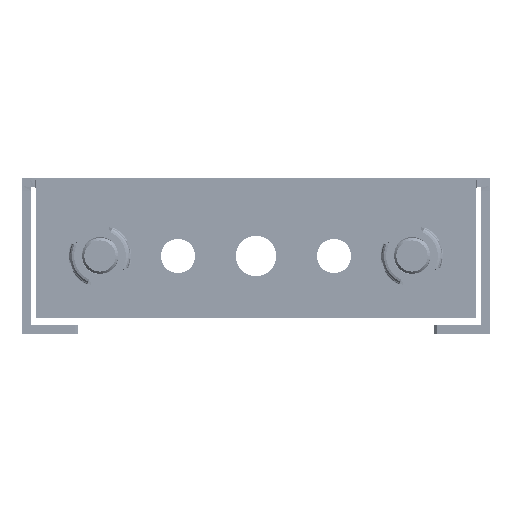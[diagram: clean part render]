
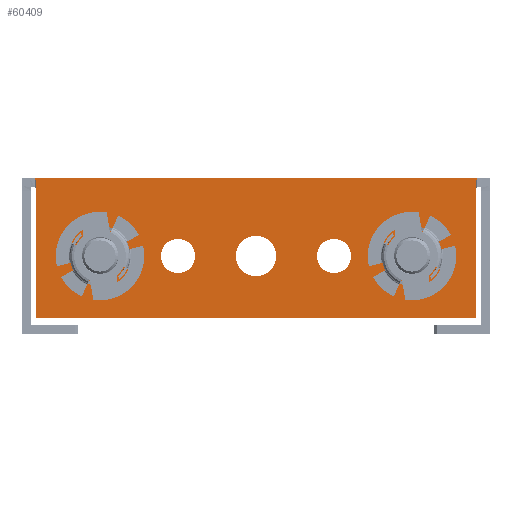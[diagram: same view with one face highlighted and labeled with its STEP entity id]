
A CAD part, left-side view. The second image highlights one B-rep face of the part: STEP entity #60409.
In plain terms, the highlighted planar face has unit normal (-1, 0, 0).
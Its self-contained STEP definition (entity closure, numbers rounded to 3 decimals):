
#28791 = VERTEX_POINT('',#28792);
#28792 = CARTESIAN_POINT('',(-549.,35.346,-0.));
#28799 = EDGE_CURVE('',#28800,#28791,#28802,.T.);
#28800 = VERTEX_POINT('',#28801);
#28801 = CARTESIAN_POINT('',(-549.,-35.346,
    0.));
#28802 = LINE('',#28803,#28804);
#28803 = CARTESIAN_POINT('',(-549.,0.,-0.));
#28804 = VECTOR('',#28805,1.);
#28805 = DIRECTION('',(-0.,1.,-0.));
#60210 = EDGE_CURVE('',#60211,#28800,#60213,.T.);
#60211 = VERTEX_POINT('',#60212);
#60212 = CARTESIAN_POINT('',(-549.,-35.293,-2.1));
#60213 = B_SPLINE_CURVE_WITH_KNOTS('',3,(#60214,#60215,#60216,#60217),
  .UNSPECIFIED.,.F.,.F.,(4,4),(0.002,0.004),
  .PIECEWISE_BEZIER_KNOTS.);
#60214 = CARTESIAN_POINT('',(-549.,-35.293,-2.1));
#60215 = CARTESIAN_POINT('',(-549.,-35.316,-1.4));
#60216 = CARTESIAN_POINT('',(-549.,-35.335,
    -0.7));
#60217 = CARTESIAN_POINT('',(-549.,-35.346,
    0.));
#60303 = EDGE_CURVE('',#60304,#28791,#60306,.T.);
#60304 = VERTEX_POINT('',#60305);
#60305 = CARTESIAN_POINT('',(-549.,35.293,-2.1));
#60306 = B_SPLINE_CURVE_WITH_KNOTS('',3,(#60307,#60308,#60309,#60310),
  .UNSPECIFIED.,.F.,.F.,(4,4),(0.002,0.004),
  .PIECEWISE_BEZIER_KNOTS.);
#60307 = CARTESIAN_POINT('',(-549.,35.293,-2.1));
#60308 = CARTESIAN_POINT('',(-549.,35.316,-1.4));
#60309 = CARTESIAN_POINT('',(-549.,35.335,-0.7));
#60310 = CARTESIAN_POINT('',(-549.,35.346,-0.));
#60385 = VERTEX_POINT('',#60386);
#60386 = CARTESIAN_POINT('',(-549.,-35.293,-22.5));
#60399 = EDGE_CURVE('',#60211,#60385,#60400,.T.);
#60400 = LINE('',#60401,#60402);
#60401 = CARTESIAN_POINT('',(-549.,-35.293,-1.5));
#60402 = VECTOR('',#60403,1.);
#60403 = DIRECTION('',(0.,0.,-1.));
#60409 = ADVANCED_FACE('',(#60410,#60421,#60432,#60443,#60454,#60465),
  #60485,.F.);
#60410 = FACE_BOUND('',#60411,.T.);
#60411 = EDGE_LOOP('',(#60412));
#60412 = ORIENTED_EDGE('',*,*,#60413,.F.);
#60413 = EDGE_CURVE('',#60414,#60414,#60416,.T.);
#60414 = VERTEX_POINT('',#60415);
#60415 = CARTESIAN_POINT('',(-549.,-12.5,-9.75));
#60416 = CIRCLE('',#60417,2.75);
#60417 = AXIS2_PLACEMENT_3D('',#60418,#60419,#60420);
#60418 = CARTESIAN_POINT('',(-549.,-12.5,-12.5));
#60419 = DIRECTION('',(-1.,0.,0.));
#60420 = DIRECTION('',(0.,0.,1.));
#60421 = FACE_BOUND('',#60422,.T.);
#60422 = EDGE_LOOP('',(#60423));
#60423 = ORIENTED_EDGE('',*,*,#60424,.F.);
#60424 = EDGE_CURVE('',#60425,#60425,#60427,.T.);
#60425 = VERTEX_POINT('',#60426);
#60426 = CARTESIAN_POINT('',(-549.,12.5,-15.25));
#60427 = CIRCLE('',#60428,2.75);
#60428 = AXIS2_PLACEMENT_3D('',#60429,#60430,#60431);
#60429 = CARTESIAN_POINT('',(-549.,12.5,-12.5));
#60430 = DIRECTION('',(-1.,0.,0.));
#60431 = DIRECTION('',(0.,0.,-1.));
#60432 = FACE_BOUND('',#60433,.T.);
#60433 = EDGE_LOOP('',(#60434));
#60434 = ORIENTED_EDGE('',*,*,#60435,.F.);
#60435 = EDGE_CURVE('',#60436,#60436,#60438,.T.);
#60436 = VERTEX_POINT('',#60437);
#60437 = CARTESIAN_POINT('',(-549.,25.,-15.75));
#60438 = CIRCLE('',#60439,3.25);
#60439 = AXIS2_PLACEMENT_3D('',#60440,#60441,#60442);
#60440 = CARTESIAN_POINT('',(-549.,25.,-12.5));
#60441 = DIRECTION('',(-1.,0.,0.));
#60442 = DIRECTION('',(0.,0.,-1.));
#60443 = FACE_BOUND('',#60444,.T.);
#60444 = EDGE_LOOP('',(#60445));
#60445 = ORIENTED_EDGE('',*,*,#60446,.F.);
#60446 = EDGE_CURVE('',#60447,#60447,#60449,.T.);
#60447 = VERTEX_POINT('',#60448);
#60448 = CARTESIAN_POINT('',(-549.,-25.,-9.25));
#60449 = CIRCLE('',#60450,3.25);
#60450 = AXIS2_PLACEMENT_3D('',#60451,#60452,#60453);
#60451 = CARTESIAN_POINT('',(-549.,-25.,-12.5));
#60452 = DIRECTION('',(-1.,0.,0.));
#60453 = DIRECTION('',(0.,0.,1.));
#60454 = FACE_BOUND('',#60455,.T.);
#60455 = EDGE_LOOP('',(#60456));
#60456 = ORIENTED_EDGE('',*,*,#60457,.F.);
#60457 = EDGE_CURVE('',#60458,#60458,#60460,.T.);
#60458 = VERTEX_POINT('',#60459);
#60459 = CARTESIAN_POINT('',(-549.,0.,-9.25));
#60460 = CIRCLE('',#60461,3.25);
#60461 = AXIS2_PLACEMENT_3D('',#60462,#60463,#60464);
#60462 = CARTESIAN_POINT('',(-549.,0.,-12.5));
#60463 = DIRECTION('',(-1.,0.,0.));
#60464 = DIRECTION('',(0.,0.,1.));
#60465 = FACE_BOUND('',#60466,.T.);
#60466 = EDGE_LOOP('',(#60467,#60468,#60469,#60470,#60471,#60479));
#60467 = ORIENTED_EDGE('',*,*,#60399,.F.);
#60468 = ORIENTED_EDGE('',*,*,#60210,.T.);
#60469 = ORIENTED_EDGE('',*,*,#28799,.T.);
#60470 = ORIENTED_EDGE('',*,*,#60303,.F.);
#60471 = ORIENTED_EDGE('',*,*,#60472,.T.);
#60472 = EDGE_CURVE('',#60304,#60473,#60475,.T.);
#60473 = VERTEX_POINT('',#60474);
#60474 = CARTESIAN_POINT('',(-549.,35.293,-22.5));
#60475 = LINE('',#60476,#60477);
#60476 = CARTESIAN_POINT('',(-549.,35.293,0.));
#60477 = VECTOR('',#60478,1.);
#60478 = DIRECTION('',(0.,0.,-1.));
#60479 = ORIENTED_EDGE('',*,*,#60480,.F.);
#60480 = EDGE_CURVE('',#60385,#60473,#60481,.T.);
#60481 = LINE('',#60482,#60483);
#60482 = CARTESIAN_POINT('',(-549.,-37.5,-22.5));
#60483 = VECTOR('',#60484,1.);
#60484 = DIRECTION('',(-0.,1.,-0.));
#60485 = PLANE('',#60486);
#60486 = AXIS2_PLACEMENT_3D('',#60487,#60488,#60489);
#60487 = CARTESIAN_POINT('',(-549.,0.,0.));
#60488 = DIRECTION('',(1.,0.,0.));
#60489 = DIRECTION('',(0.,0.,-1.));
